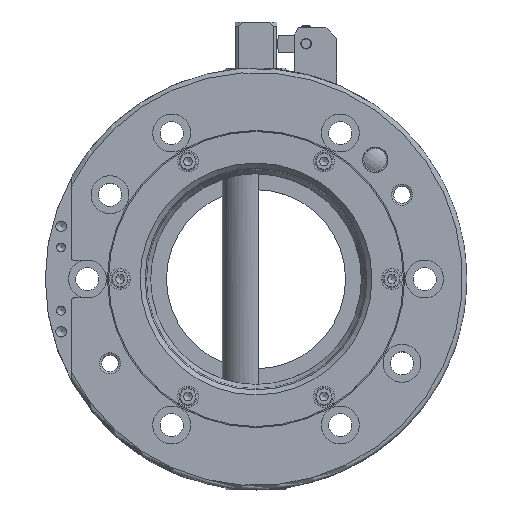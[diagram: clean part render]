
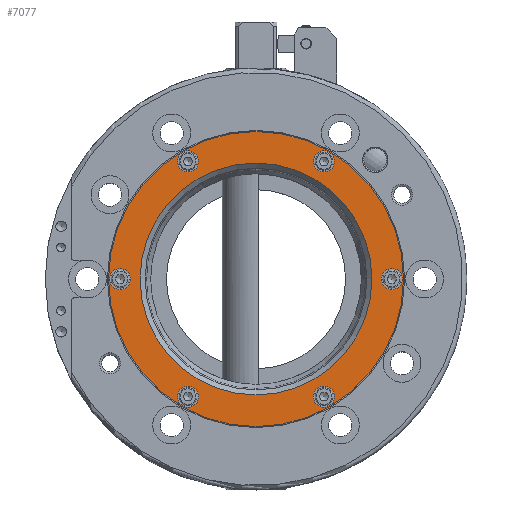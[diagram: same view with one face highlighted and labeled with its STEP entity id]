
A CAD part, top view. The second image highlights one B-rep face of the part: STEP entity #7077.
In plain terms, the highlighted planar face has unit normal (0, 0, 1).
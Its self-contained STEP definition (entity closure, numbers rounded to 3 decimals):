
#411=FACE_BOUND('',#1530,.T.);
#412=FACE_BOUND('',#1531,.T.);
#413=FACE_BOUND('',#1532,.T.);
#414=FACE_BOUND('',#1533,.T.);
#415=FACE_BOUND('',#1534,.T.);
#416=FACE_BOUND('',#1535,.T.);
#417=FACE_BOUND('',#1536,.T.);
#657=CIRCLE('',#7685,70.);
#658=CIRCLE('',#7686,70.);
#665=CIRCLE('',#7696,55.);
#666=CIRCLE('',#7697,5.);
#667=CIRCLE('',#7698,5.);
#668=CIRCLE('',#7699,5.);
#669=CIRCLE('',#7700,5.);
#670=CIRCLE('',#7701,5.);
#671=CIRCLE('',#7702,5.);
#672=CIRCLE('',#7703,5.);
#673=CIRCLE('',#7704,5.);
#674=CIRCLE('',#7705,5.);
#675=CIRCLE('',#7706,5.);
#676=CIRCLE('',#7707,5.);
#677=CIRCLE('',#7708,5.);
#1097=FACE_OUTER_BOUND('',#1529,.T.);
#1529=EDGE_LOOP('',(#5093,#5094));
#1530=EDGE_LOOP('',(#5095));
#1531=EDGE_LOOP('',(#5096,#5097));
#1532=EDGE_LOOP('',(#5098,#5099));
#1533=EDGE_LOOP('',(#5100,#5101));
#1534=EDGE_LOOP('',(#5102,#5103));
#1535=EDGE_LOOP('',(#5104,#5105));
#1536=EDGE_LOOP('',(#5106,#5107));
#2881=VERTEX_POINT('',#11637);
#2882=VERTEX_POINT('',#11638);
#2889=VERTEX_POINT('',#11658);
#2890=VERTEX_POINT('',#11660);
#2891=VERTEX_POINT('',#11661);
#2892=VERTEX_POINT('',#11664);
#2893=VERTEX_POINT('',#11665);
#2894=VERTEX_POINT('',#11668);
#2895=VERTEX_POINT('',#11669);
#2896=VERTEX_POINT('',#11672);
#2897=VERTEX_POINT('',#11673);
#2898=VERTEX_POINT('',#11676);
#2899=VERTEX_POINT('',#11677);
#2900=VERTEX_POINT('',#11680);
#2901=VERTEX_POINT('',#11681);
#3704=EDGE_CURVE('',#2881,#2882,#657,.T.);
#3705=EDGE_CURVE('',#2882,#2881,#658,.T.);
#3714=EDGE_CURVE('',#2889,#2889,#665,.T.);
#3715=EDGE_CURVE('',#2890,#2891,#666,.T.);
#3716=EDGE_CURVE('',#2891,#2890,#667,.T.);
#3717=EDGE_CURVE('',#2892,#2893,#668,.T.);
#3718=EDGE_CURVE('',#2893,#2892,#669,.T.);
#3719=EDGE_CURVE('',#2894,#2895,#670,.T.);
#3720=EDGE_CURVE('',#2895,#2894,#671,.T.);
#3721=EDGE_CURVE('',#2896,#2897,#672,.T.);
#3722=EDGE_CURVE('',#2897,#2896,#673,.T.);
#3723=EDGE_CURVE('',#2898,#2899,#674,.T.);
#3724=EDGE_CURVE('',#2899,#2898,#675,.T.);
#3725=EDGE_CURVE('',#2900,#2901,#676,.T.);
#3726=EDGE_CURVE('',#2901,#2900,#677,.T.);
#5093=ORIENTED_EDGE('',*,*,#3704,.T.);
#5094=ORIENTED_EDGE('',*,*,#3705,.T.);
#5095=ORIENTED_EDGE('',*,*,#3714,.F.);
#5096=ORIENTED_EDGE('',*,*,#3715,.T.);
#5097=ORIENTED_EDGE('',*,*,#3716,.T.);
#5098=ORIENTED_EDGE('',*,*,#3717,.T.);
#5099=ORIENTED_EDGE('',*,*,#3718,.T.);
#5100=ORIENTED_EDGE('',*,*,#3719,.T.);
#5101=ORIENTED_EDGE('',*,*,#3720,.T.);
#5102=ORIENTED_EDGE('',*,*,#3721,.T.);
#5103=ORIENTED_EDGE('',*,*,#3722,.T.);
#5104=ORIENTED_EDGE('',*,*,#3723,.T.);
#5105=ORIENTED_EDGE('',*,*,#3724,.T.);
#5106=ORIENTED_EDGE('',*,*,#3725,.T.);
#5107=ORIENTED_EDGE('',*,*,#3726,.T.);
#6447=PLANE('',#7695);
#7077=ADVANCED_FACE('',(#1097,#411,#412,#413,#414,#415,#416,#417),#6447,
 .T.);
#7685=AXIS2_PLACEMENT_3D('',#11639,#9040,#9041);
#7686=AXIS2_PLACEMENT_3D('',#11640,#9042,#9043);
#7695=AXIS2_PLACEMENT_3D('',#11657,#9062,#9063);
#7696=AXIS2_PLACEMENT_3D('',#11659,#9064,#9065);
#7697=AXIS2_PLACEMENT_3D('',#11662,#9066,#9067);
#7698=AXIS2_PLACEMENT_3D('',#11663,#9068,#9069);
#7699=AXIS2_PLACEMENT_3D('',#11666,#9070,#9071);
#7700=AXIS2_PLACEMENT_3D('',#11667,#9072,#9073);
#7701=AXIS2_PLACEMENT_3D('',#11670,#9074,#9075);
#7702=AXIS2_PLACEMENT_3D('',#11671,#9076,#9077);
#7703=AXIS2_PLACEMENT_3D('',#11674,#9078,#9079);
#7704=AXIS2_PLACEMENT_3D('',#11675,#9080,#9081);
#7705=AXIS2_PLACEMENT_3D('',#11678,#9082,#9083);
#7706=AXIS2_PLACEMENT_3D('',#11679,#9084,#9085);
#7707=AXIS2_PLACEMENT_3D('',#11682,#9086,#9087);
#7708=AXIS2_PLACEMENT_3D('',#11683,#9088,#9089);
#9040=DIRECTION('center_axis',(0.,0.,
1.));
#9041=DIRECTION('ref_axis',(0.,-1.,0.));
#9042=DIRECTION('center_axis',(0.,0.,
1.));
#9043=DIRECTION('ref_axis',(0.,-1.,0.));
#9062=DIRECTION('center_axis',(0.,0.,
1.));
#9063=DIRECTION('ref_axis',(1.,0.,0.));
#9064=DIRECTION('center_axis',(0.,0.,
1.));
#9065=DIRECTION('ref_axis',(0.,1.,0.));
#9066=DIRECTION('center_axis',(0.,0.,
-1.));
#9067=DIRECTION('ref_axis',(-0.5,-0.866,0.));
#9068=DIRECTION('center_axis',(0.,0.,
-1.));
#9069=DIRECTION('ref_axis',(-0.5,-0.866,0.));
#9070=DIRECTION('center_axis',(0.,0.,
-1.));
#9071=DIRECTION('ref_axis',(-1.,0.,0.));
#9072=DIRECTION('center_axis',(0.,0.,
-1.));
#9073=DIRECTION('ref_axis',(-1.,0.,0.));
#9074=DIRECTION('center_axis',(0.,0.,
-1.));
#9075=DIRECTION('ref_axis',(-0.5,0.866,0.));
#9076=DIRECTION('center_axis',(0.,0.,
-1.));
#9077=DIRECTION('ref_axis',(-0.5,0.866,0.));
#9078=DIRECTION('center_axis',(0.,0.,
-1.));
#9079=DIRECTION('ref_axis',(0.5,0.866,0.));
#9080=DIRECTION('center_axis',(0.,0.,
-1.));
#9081=DIRECTION('ref_axis',(0.5,0.866,0.));
#9082=DIRECTION('center_axis',(0.,0.,
-1.));
#9083=DIRECTION('ref_axis',(0.5,-0.866,0.));
#9084=DIRECTION('center_axis',(0.,0.,
-1.));
#9085=DIRECTION('ref_axis',(0.5,-0.866,0.));
#9086=DIRECTION('center_axis',(0.,0.,
-1.));
#9087=DIRECTION('ref_axis',(1.,0.,0.));
#9088=DIRECTION('center_axis',(0.,0.,
-1.));
#9089=DIRECTION('ref_axis',(1.,0.,0.));
#11637=CARTESIAN_POINT('',(0.,-70.,32.4));
#11638=CARTESIAN_POINT('',(0.,70.,32.4));
#11639=CARTESIAN_POINT('Origin',(0.,0.,
32.4));
#11640=CARTESIAN_POINT('Origin',(0.,0.,
32.4));
#11657=CARTESIAN_POINT('Origin',(0.,-61.,32.4));
#11658=CARTESIAN_POINT('',(0.,-55.,32.4));
#11659=CARTESIAN_POINT('Origin',(0.,0.,
32.4));
#11660=CARTESIAN_POINT('',(29.75,51.529,32.4));
#11661=CARTESIAN_POINT('',(34.75,60.189,32.4));
#11662=CARTESIAN_POINT('Origin',(32.25,55.859,32.4));
#11663=CARTESIAN_POINT('Origin',(32.25,55.859,32.4));
#11664=CARTESIAN_POINT('',(59.5,0.,32.4));
#11665=CARTESIAN_POINT('',(69.5,0.,32.4));
#11666=CARTESIAN_POINT('Origin',(64.5,0.,32.4));
#11667=CARTESIAN_POINT('Origin',(64.5,0.,32.4));
#11668=CARTESIAN_POINT('',(29.75,-51.529,32.4));
#11669=CARTESIAN_POINT('',(34.75,-60.189,32.4));
#11670=CARTESIAN_POINT('Origin',(32.25,-55.859,32.4));
#11671=CARTESIAN_POINT('Origin',(32.25,-55.859,32.4));
#11672=CARTESIAN_POINT('',(-29.75,-51.529,32.4));
#11673=CARTESIAN_POINT('',(-34.75,-60.189,32.4));
#11674=CARTESIAN_POINT('Origin',(-32.25,-55.859,32.4));
#11675=CARTESIAN_POINT('Origin',(-32.25,-55.859,32.4));
#11676=CARTESIAN_POINT('',(-29.75,51.529,32.4));
#11677=CARTESIAN_POINT('',(-34.75,60.189,32.4));
#11678=CARTESIAN_POINT('Origin',(-32.25,55.859,32.4));
#11679=CARTESIAN_POINT('Origin',(-32.25,55.859,32.4));
#11680=CARTESIAN_POINT('',(-59.5,0.,32.4));
#11681=CARTESIAN_POINT('',(-69.5,0.,32.4));
#11682=CARTESIAN_POINT('Origin',(-64.5,0.,32.4));
#11683=CARTESIAN_POINT('Origin',(-64.5,0.,32.4));
